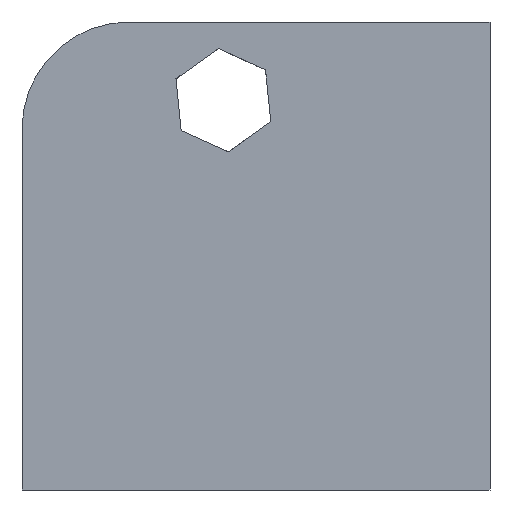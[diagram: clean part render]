
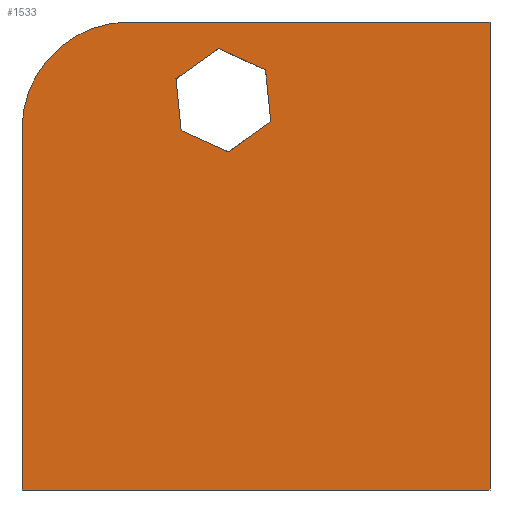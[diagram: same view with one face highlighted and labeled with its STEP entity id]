
A CAD part, front view. The second image highlights one B-rep face of the part: STEP entity #1533.
In plain terms, the highlighted planar face has unit normal (0, -1, 0).
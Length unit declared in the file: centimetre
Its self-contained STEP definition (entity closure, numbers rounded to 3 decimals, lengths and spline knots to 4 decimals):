
#20 = ORIENTED_EDGE ( 'NONE', *, *, #230, .T. ) ;
#36 = CARTESIAN_POINT ( 'NONE',  ( 340.0605, 0., 768.0002 ) ) ;
#51 = CARTESIAN_POINT ( 'NONE',  ( 520.4174, 0., 897.6683 ) ) ;
#66 = CARTESIAN_POINT ( 'NONE',  ( 0., 0., 1000. ) ) ;
#78 = CARTESIAN_POINT ( 'NONE',  ( 419.1802, 0., 943.3481 ) ) ;
#84 = CARTESIAN_POINT ( 'NONE',  ( 0., 0., 0. ) ) ;
#114 = DIRECTION ( 'NONE',  ( 0.812, 0., 0.584 ) ) ;
#185 = PLANE ( 'NONE',  #221 ) ;
#189 = DIRECTION ( 'NONE',  ( 0.1, 0., -0.995 ) ) ;
#191 = FACE_OUTER_BOUND ( 'NONE', #1594, .T. ) ;
#197 = CARTESIAN_POINT ( 'NONE',  ( 1000., 0., 1000. ) ) ;
#204 = CARTESIAN_POINT ( 'NONE',  ( 340.0605, 0., 768.0002 ) ) ;
#213 = DIRECTION ( 'NONE',  ( 0., -1., 0. ) ) ;
#221 = AXIS2_PLACEMENT_3D ( 'NONE', #66, #1247, #727 ) ;
#230 = EDGE_CURVE ( 'NONE', #540, #615, #1573, .T. ) ;
#240 = ORIENTED_EDGE ( 'NONE', *, *, #1670, .T. ) ;
#284 = CARTESIAN_POINT ( 'NONE',  ( 0., 0., 0. ) ) ;
#328 = CARTESIAN_POINT ( 'NONE',  ( 1000., 0., 1000. ) ) ;
#333 = LINE ( 'NONE', #197, #1399 ) ;
#341 = DIRECTION ( 'NONE',  ( -0.1, 0., 0.995 ) ) ;
#352 = VERTEX_POINT ( 'NONE', #1130 ) ;
#371 = ORIENTED_EDGE ( 'NONE', *, *, #1576, .F. ) ;
#398 = VECTOR ( 'NONE', #341, 100. ) ;
#421 = CARTESIAN_POINT ( 'NONE',  ( 1000., 0., 0. ) ) ;
#437 = EDGE_LOOP ( 'NONE', ( #20, #1449, #715, #1133, #859, #1644 ) ) ;
#456 = LINE ( 'NONE', #51, #1037 ) ;
#486 = ORIENTED_EDGE ( 'NONE', *, *, #978, .F. ) ;
#499 = VERTEX_POINT ( 'NONE', #1065 ) ;
#501 = CARTESIAN_POINT ( 'NONE',  ( 329.0018, 0., 878.5141 ) ) ;
#521 = EDGE_CURVE ( 'NONE', #1635, #540, #1717, .T. ) ;
#540 = VERTEX_POINT ( 'NONE', #1082 ) ;
#544 = CARTESIAN_POINT ( 'NONE',  ( 329.0018, 0., 878.5141 ) ) ;
#548 = VERTEX_POINT ( 'NONE', #284 ) ;
#562 = DIRECTION ( 'NONE',  ( -0.912, 0., 0.411 ) ) ;
#573 = VECTOR ( 'NONE', #562, 100. ) ;
#578 = VERTEX_POINT ( 'NONE', #204 ) ;
#586 = CARTESIAN_POINT ( 'NONE',  ( 531.4761, 0., 787.1545 ) ) ;
#615 = VERTEX_POINT ( 'NONE', #1656 ) ;
#619 = VECTOR ( 'NONE', #1422, 100. ) ;
#629 = VECTOR ( 'NONE', #772, 100. ) ;
#658 = CARTESIAN_POINT ( 'NONE',  ( 229.621, 0., 1000. ) ) ;
#714 = LINE ( 'NONE', #36, #398 ) ;
#715 = ORIENTED_EDGE ( 'NONE', *, *, #1430, .T. ) ;
#727 = DIRECTION ( 'NONE',  ( 0., 0., 1. ) ) ;
#738 = CIRCLE ( 'NONE', #1455, 229.621 ) ;
#772 = DIRECTION ( 'NONE',  ( 0., 0., -1. ) ) ;
#779 = LINE ( 'NONE', #1426, #629 ) ;
#825 = VECTOR ( 'NONE', #1295, 100. ) ;
#859 = ORIENTED_EDGE ( 'NONE', *, *, #1597, .T. ) ;
#863 = DIRECTION ( 'NONE',  ( -0.812, 0., -0.584 ) ) ;
#875 = EDGE_CURVE ( 'NONE', #615, #1468, #456, .T. ) ;
#978 = EDGE_CURVE ( 'NONE', #1088, #1477, #1296, .T. ) ;
#1037 = VECTOR ( 'NONE', #189, 100. ) ;
#1065 = CARTESIAN_POINT ( 'NONE',  ( 441.2976, 0., 722.3204 ) ) ;
#1082 = CARTESIAN_POINT ( 'NONE',  ( 419.1802, 0., 943.3481 ) ) ;
#1088 = VERTEX_POINT ( 'NONE', #658 ) ;
#1094 = LINE ( 'NONE', #1630, #1691 ) ;
#1130 = CARTESIAN_POINT ( 'NONE',  ( 0., 0., 770.379 ) ) ;
#1133 = ORIENTED_EDGE ( 'NONE', *, *, #1381, .T. ) ;
#1151 = CARTESIAN_POINT ( 'NONE',  ( 229.621, 0., 770.379 ) ) ;
#1241 = ORIENTED_EDGE ( 'NONE', *, *, #1639, .T. ) ;
#1247 = DIRECTION ( 'NONE',  ( 0., 1., 0. ) ) ;
#1274 = DIRECTION ( 'NONE',  ( 0., 0., 1. ) ) ;
#1294 = ORIENTED_EDGE ( 'NONE', *, *, #1706, .T. ) ;
#1295 = DIRECTION ( 'NONE',  ( 0.912, 0., -0.411 ) ) ;
#1296 = LINE ( 'NONE', #1715, #619 ) ;
#1321 = VERTEX_POINT ( 'NONE', #421 ) ;
#1363 = CARTESIAN_POINT ( 'NONE',  ( 441.2976, 0., 722.3204 ) ) ;
#1371 = FACE_BOUND ( 'NONE', #437, .T. ) ;
#1381 = EDGE_CURVE ( 'NONE', #499, #578, #1484, .T. ) ;
#1399 = VECTOR ( 'NONE', #1400, 100. ) ;
#1400 = DIRECTION ( 'NONE',  ( 0., 0., -1. ) ) ;
#1422 = DIRECTION ( 'NONE',  ( 1., 0., 0. ) ) ;
#1426 = CARTESIAN_POINT ( 'NONE',  ( 0., 0., 1000. ) ) ;
#1430 = EDGE_CURVE ( 'NONE', #1468, #499, #1094, .T. ) ;
#1449 = ORIENTED_EDGE ( 'NONE', *, *, #875, .T. ) ;
#1452 = VECTOR ( 'NONE', #114, 100. ) ;
#1455 = AXIS2_PLACEMENT_3D ( 'NONE', #1151, #213, #1274 ) ;
#1468 = VERTEX_POINT ( 'NONE', #586 ) ;
#1477 = VERTEX_POINT ( 'NONE', #328 ) ;
#1484 = LINE ( 'NONE', #1363, #573 ) ;
#1521 = VECTOR ( 'NONE', #1677, 100. ) ;
#1533 = ADVANCED_FACE ( 'NONE', ( #1371, #191 ), #185, .F. ) ;
#1573 = LINE ( 'NONE', #78, #825 ) ;
#1576 = EDGE_CURVE ( 'NONE', #1477, #1321, #333, .T. ) ;
#1594 = EDGE_LOOP ( 'NONE', ( #486, #1294, #240, #1241, #371 ) ) ;
#1597 = EDGE_CURVE ( 'NONE', #578, #1635, #714, .T. ) ;
#1630 = CARTESIAN_POINT ( 'NONE',  ( 531.4761, 0., 787.1545 ) ) ;
#1635 = VERTEX_POINT ( 'NONE', #501 ) ;
#1639 = EDGE_CURVE ( 'NONE', #548, #1321, #1684, .T. ) ;
#1644 = ORIENTED_EDGE ( 'NONE', *, *, #521, .T. ) ;
#1656 = CARTESIAN_POINT ( 'NONE',  ( 520.4174, 0., 897.6683 ) ) ;
#1670 = EDGE_CURVE ( 'NONE', #352, #548, #779, .T. ) ;
#1677 = DIRECTION ( 'NONE',  ( 1., 0., 0. ) ) ;
#1684 = LINE ( 'NONE', #84, #1521 ) ;
#1691 = VECTOR ( 'NONE', #863, 100. ) ;
#1706 = EDGE_CURVE ( 'NONE', #1088, #352, #738, .T. ) ;
#1715 = CARTESIAN_POINT ( 'NONE',  ( 0., 0., 1000. ) ) ;
#1717 = LINE ( 'NONE', #544, #1452 ) ;
